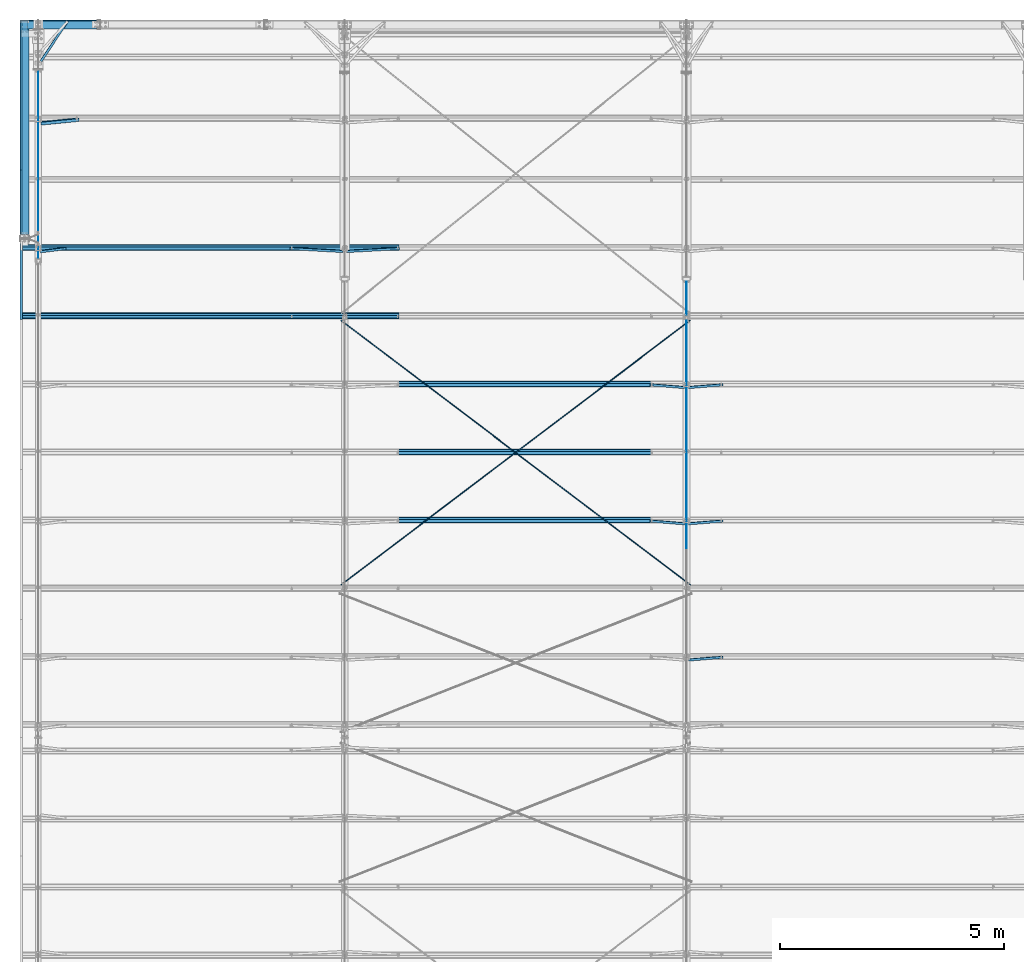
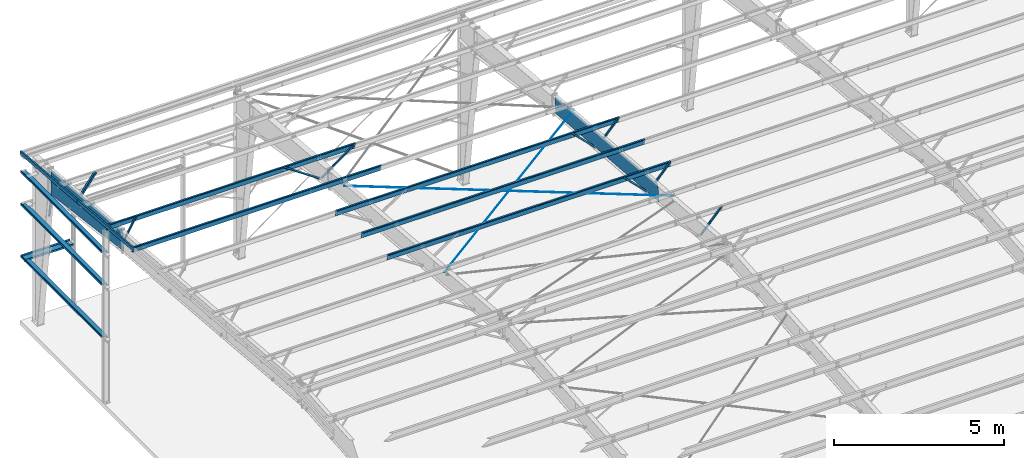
# One storey, part 12 of 185: 16 beams, 9 members, 2 openings, 25 elements without a shape of their own.
"""IFC2X3 building model written with IfcOpenShell, lengths in millimetres."""

import ifcopenshell
import ifcopenshell.guid

model = None  # the IFC model being written
_history = None  # IfcOwnerHistory: only IFC2X3 demands one
_inside = {}  # id of a spatial element -> (the spatial element, [elements in it])
_under = {}  # id of a project, library or spatial element -> (it, [spatial elements below it])
_declared = {}  # id of a project -> (the project, [libraries it declares])
_typed = {}  # id of a type object -> (the type object, [elements of that type])
_made_of = {}  # id of a material, layer set ... -> (it, [elements and type objects made of it])


def new_model(schema):
    """Start an empty IFC model of exactly this schema.

    Asked for "IFC4X3", IfcOpenShell would pick the latest addendum, in which some entities
    have other attributes; the version numbers below select the first issue.
    IFC2X3 requires an IfcOwnerHistory on every rooted entity: one is made here for all.
    """
    global model, _history
    if schema == "IFC4X3":
        model = ifcopenshell.file(schema_version=(4, 3, 0, 0))
    else:
        model = ifcopenshell.file(schema=schema)
    _inside.clear()
    _under.clear()
    _declared.clear()
    _typed.clear()
    _made_of.clear()
    _history = None
    if model.schema == "IFC2X3":
        org = make("IfcOrganization", Name="unknown")
        user = make(
            "IfcPersonAndOrganization",
            ThePerson=make("IfcPerson", FamilyName="unknown"),
            TheOrganization=org,
        )
        app = make(
            "IfcApplication",
            ApplicationDeveloper=org,
            Version="unknown",
            ApplicationFullName="unknown",
            ApplicationIdentifier="unknown",
        )
        _history = make(
            "IfcOwnerHistory",
            OwningUser=user,
            OwningApplication=app,
            ChangeAction="ADDED",
            CreationDate=0,
        )
    return model


def make(cls, **values):
    """One entity of the class cls with the attributes given. An attribute that is None is left unset."""
    return model.create_entity(
        cls, **{name: value for name, value in values.items() if value is not None}
    )


def rooted(cls, **values):
    """An entity with a GlobalId (a new one), such as an element, a storey or a relation."""
    return make(cls, GlobalId=ifcopenshell.guid.new(), OwnerHistory=_history, **values)


def si_unit(unit_type, name, prefix=None):
    """IfcSIUnit, for example si_unit("LENGTHUNIT", "METRE", prefix="MILLI")."""
    return make("IfcSIUnit", UnitType=unit_type, Prefix=prefix, Name=name)


def assignment(units):
    """IfcUnitAssignment: the units of a project."""
    return None if units is None else make("IfcUnitAssignment", Units=units)


def point(xyz):
    """IfcCartesianPoint."""
    return None if xyz is None else make("IfcCartesianPoint", Coordinates=xyz)


def direction(xyz):
    """IfcDirection."""
    return None if xyz is None else make("IfcDirection", DirectionRatios=xyz)


def frame(location, z_axis=None, x_axis=None):
    """IfcAxis2Placement3D, a coordinate frame: its origin and axes. An axis left out is left unset."""
    return make(
        "IfcAxis2Placement3D",
        Location=point(location),
        Axis=direction(z_axis),
        RefDirection=direction(x_axis),
    )


def frame_2d(location, x_axis=None):
    """IfcAxis2Placement2D, a coordinate frame in the plane: its origin and x axis."""
    return make(
        "IfcAxis2Placement2D", Location=point(location), RefDirection=direction(x_axis)
    )


def origin_with_axes():
    """The frame at (0, 0, 0) with the z axis (0, 0, 1) and the x axis (1, 0, 0) written out."""
    return frame((0.0, 0.0, 0.0), z_axis=(0.0, 0.0, 1.0), x_axis=(1.0, 0.0, 0.0))


def origin_2d_with_axis():
    """The frame at (0, 0) in the plane with the x axis (1, 0) written out."""
    return frame_2d((0.0, 0.0), x_axis=(1.0, 0.0))


def place(relative_to, where):
    """IfcLocalPlacement: puts the frame where relative to a parent placement (None: the world)."""
    return make(
        "IfcLocalPlacement", PlacementRelTo=relative_to, RelativePlacement=where
    )


def context(
    kind, dimensions, precision=None, world=None, true_north=None, identifier=None
):
    """IfcGeometricRepresentationContext, for example the 3D "Model" context."""
    return make(
        "IfcGeometricRepresentationContext",
        ContextIdentifier=identifier,
        ContextType=kind,
        CoordinateSpaceDimension=dimensions,
        Precision=precision,
        WorldCoordinateSystem=world,
        TrueNorth=true_north,
    )


def subcontext(parent, identifier, kind, view, scale=None):
    """IfcGeometricRepresentationSubContext, for example "Body" below "Model"."""
    return make(
        "IfcGeometricRepresentationSubContext",
        ContextIdentifier=identifier,
        ContextType=kind,
        ParentContext=parent,
        TargetScale=scale,
        TargetView=view,
    )


def project(units=None, contexts=None):
    """IfcProject with its units and contexts."""
    return rooted(
        "IfcProject",
        Name="project",
        RepresentationContexts=contexts,
        UnitsInContext=assignment(units),
    )


def spatial(cls, under=None, at=None, **own):
    """A site, building, storey or space (cls), placed at a placement, below another one or the project."""
    s = rooted(cls, ObjectPlacement=at, **own)
    if under is not None:
        _under.setdefault(under.id(), (under, []))[1].append(s)
    return s


def polyline(points):
    """IfcPolyline through the points."""
    return make("IfcPolyline", Points=[point(p) for p in points])


def profile(cls, at=None, kind="AREA", **sizes):
    """A parametric profile (cls). Its sizes go by their IFC names, for example OverallWidth=200.0."""
    return make(cls, ProfileType=kind, Position=at, **sizes)


def rectangle(**sizes):
    """IfcRectangleProfileDef."""
    return profile("IfcRectangleProfileDef", **sizes)


def circle(**sizes):
    """IfcCircleProfileDef."""
    return profile("IfcCircleProfileDef", **sizes)


def l_section(**sizes):
    """IfcLShapeProfileDef."""
    return profile("IfcLShapeProfileDef", **sizes)


def outline(outer, holes=None, kind="AREA"):
    """IfcArbitraryClosedProfileDef: a profile drawn as a closed curve; with holes, ...WithVoids."""
    if holes is None:
        return make("IfcArbitraryClosedProfileDef", ProfileType=kind, OuterCurve=outer)
    return make(
        "IfcArbitraryProfileDefWithVoids",
        ProfileType=kind,
        OuterCurve=outer,
        InnerCurves=holes,
    )


def extrude(swept, where, along, depth):
    """IfcExtrudedAreaSolid: the profile swept, set in the frame where, extruded along a direction by depth."""
    return make(
        "IfcExtrudedAreaSolid",
        SweptArea=swept,
        Position=where,
        ExtrudedDirection=direction(along),
        Depth=depth,
    )


def clip(a, b, op="DIFFERENCE"):
    """IfcBooleanClippingResult: the solid a cut by the half space b."""
    return make(
        "IfcBooleanClippingResult", Operator=op, FirstOperand=a, SecondOperand=b
    )


def halfspace(plane, agree):
    """IfcHalfSpaceSolid: all space on one side of the plane z = 0 of the frame plane."""
    return make(
        "IfcHalfSpaceSolid",
        BaseSurface=make("IfcPlane", Position=plane),
        AgreementFlag=agree,
    )


def shape(context_of_items, identifier, shape_type, items):
    """IfcShapeRepresentation: the items that make up one representation, for example the "Body"."""
    return make(
        "IfcShapeRepresentation",
        ContextOfItems=context_of_items,
        RepresentationIdentifier=identifier,
        RepresentationType=shape_type,
        Items=items,
    )


def material(Name=None, Category=None):
    """IfcMaterial."""
    return make("IfcMaterial", Name=Name, Category=Category)


def made_of(thing, what):
    """Note that an element or type object is made of a material, layer set ...; save() writes the relation."""
    if what is not None:
        _made_of.setdefault(what.id(), (what, []))[1].append(thing)
    return thing


def type_object(cls, material=None, **own):
    """A type object (cls), such as IfcWallType, which elements share."""
    return made_of(rooted(cls, **own), material)


def element(
    cls,
    number,
    at=None,
    inside=None,
    cuts=None,
    type_object=None,
    material=None,
    context=None,
    identifier="Body",
    shape_type=None,
    held_by="IfcProductDefinitionShape",
    body=None,
    shapes=None,
    **own,
):
    """One element of the class cls, such as IfcWall. Its Tag is "e" and its number.

    at: its placement. inside: the storey or other place that contains it. cuts: it is an
    opening in that element (IfcRelVoidsElement). A single representation is given by context,
    identifier, shape_type and body (its items); several are given by shapes. held_by: the class
    of the entity that holds the representations. save() writes the other relations.
    """
    e = rooted(cls, Tag="e%d" % number, ObjectPlacement=at, **own)
    if body is not None:
        shapes = [shape(context, identifier, shape_type, body)]
    if shapes is not None:
        e.Representation = make(held_by, Representations=shapes)
    if inside is not None:
        _inside.setdefault(inside.id(), (inside, []))[1].append(e)
    if cuts is not None:
        rooted(
            "IfcRelVoidsElement", RelatingBuildingElement=cuts, RelatedOpeningElement=e
        )
    if type_object is not None:
        _typed.setdefault(type_object.id(), (type_object, []))[1].append(e)
    return made_of(e, material)


def aggregate(whole, parts):
    """IfcRelAggregates: a whole, such as a stair, and the parts it consists of."""
    return rooted("IfcRelAggregates", RelatingObject=whole, RelatedObjects=parts)


def save(model, path):
    """Write the relations noted so far, then the file.

    IfcRelAggregates (storeys below a building ...), IfcRelContainedInSpatialStructure (elements
    in a storey), IfcRelDefinesByType, IfcRelAssociatesMaterial and IfcRelDeclares: one each for
    every whole, place, type object, material and project.
    """
    for whole, parts in _under.values():
        aggregate(whole, parts)
    for where, things in _inside.values():
        rooted(
            "IfcRelContainedInSpatialStructure",
            RelatedElements=things,
            RelatingStructure=where,
        )
    for kind, things in _typed.values():
        rooted("IfcRelDefinesByType", RelatedObjects=things, RelatingType=kind)
    for what, things in _made_of.values():
        rooted("IfcRelAssociatesMaterial", RelatedObjects=things, RelatingMaterial=what)
    for by, libraries in _declared.values():
        rooted("IfcRelDeclares", RelatingContext=by, RelatedDefinitions=libraries)
    model.write(path)


model = new_model("IFC2X3")

# Units and contexts
model_context = context("Model", 3, precision=1e-05, world=origin_with_axes())
body_context = subcontext(model_context, "Body", "Model", "MODEL_VIEW")
ifc_project = project(units=[si_unit("LENGTHUNIT", "METRE", prefix="MILLI"), si_unit("AREAUNIT", "SQUARE_METRE"), si_unit("VOLUMEUNIT", "CUBIC_METRE"), si_unit("MASSUNIT", "GRAM", prefix="KILO"), si_unit("TIMEUNIT", "SECOND"), si_unit("PLANEANGLEUNIT", "RADIAN"), si_unit("SOLIDANGLEUNIT", "STERADIAN"), si_unit("THERMODYNAMICTEMPERATUREUNIT", "DEGREE_CELSIUS"), si_unit("LUMINOUSINTENSITYUNIT", "LUMEN")], contexts=[model_context])

# Site, building, storey
site_placement = place(None, origin_with_axes())
site = spatial("IfcSite", under=ifc_project, at=site_placement, Name="Undefined", CompositionType="ELEMENT")
building_placement = place(site_placement, origin_with_axes())
building = spatial("IfcBuilding", under=site, at=building_placement, Name="Undefined", CompositionType="ELEMENT")
storey_placement = place(building_placement, origin_with_axes())
storey = spatial("IfcBuildingStorey", under=building, at=storey_placement, Name="Undefined", CompositionType="ELEMENT", Elevation=0.0)

# Assembly, beam, opening
assembly_1_placement = place(storey_placement, origin_with_axes())
assembly_1 = element("IfcElementAssembly", 1, at=assembly_1_placement, inside=storey, Name="Steel Assembly", AssemblyPlace="NOTDEFINED", PredefinedType="RIGID_FRAME")
ifc_material = material(Name="STEEL/55")
beam_type_1 = type_object("IfcBeamType", Name="8Z15", PredefinedType="NOTDEFINED")
beam_1_placement = place(assembly_1_placement, frame((101.6, 31978.6, 2286.0), z_axis=(1.0, 0.0, 0.0), x_axis=(0.0, -1.0, 0.0)))
beam_1 = element("IfcBeam", 2, at=beam_1_placement, type_object=beam_type_1, material=ifc_material, Name="Girt", ObjectType="8Z15", context=body_context, shape_type="Clipping", body=[
    clip(clip(extrude(outline(polyline([(-75.75, 87.0100021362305), (-63.5, 101.599998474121), (1.5900000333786, 101.599998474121), (1.5900000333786, -98.4199981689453), (62.0200004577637, -98.4199981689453), (73.3099975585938, -84.9700012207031), (75.7399978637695, -87.0100021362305), (63.5, -101.599998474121), (-1.5900000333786, -101.599998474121), (-1.5900000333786, 98.4199981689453), (-62.0200004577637, 98.4199981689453), (-73.3099975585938, 84.9700012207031), (-75.75, 87.0100021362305)])), frame((5054.60078125, 0.0, 0.0), z_axis=(-1.0, 0.0, 0.0), x_axis=(0.0, -1.0, 0.0)), (0.0, 0.0, 1.0), 5054.6), halfspace(frame((4762.5, -74.5286799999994, -101.6), z_axis=(1.0, 0.0, 0.0), x_axis=(0.0, 0.0, 1.0)), False)), halfspace(frame((4965.7, 74.5286799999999, -101.6), z_axis=(1.0, 0.0, 0.0), x_axis=(0.0, -1.0, 0.0)), False)),
])
opening_1_placement = place(assembly_1_placement, frame((101.6, 31978.6, 2286.0), z_axis=(1.0, 0.0, 0.0), x_axis=(0.0, -1.0, 0.0)))
element("IfcOpeningElement", 3, at=opening_1_placement, cuts=beam_1, ObjectType="Recess", context=body_context, shape_type="SweptSolid", body=[
    extrude(outline(polyline([(0.0, 0.0), (203.199996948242, 0.0), (203.199996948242, 254.0), (0.0, 254.0), (0.0, 0.0)])), frame((-50.8000000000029, 101.6, 73.025), z_axis=(0.0, 0.0, 1.0), x_axis=(0.0, -1.0, 0.0)), (0.0, 0.0, 1.0), 76.2),
])
aggregate(assembly_1, [beam_1])

# Assembly, beam
assembly_2_placement = place(storey_placement, origin_with_axes())
assembly_2 = element("IfcElementAssembly", 4, at=assembly_2_placement, inside=storey, Name="Steel Assembly", AssemblyPlace="NOTDEFINED", PredefinedType="RIGID_FRAME")
beam_2_placement = place(assembly_2_placement, frame((14859.0, 23890.9879796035, 6670.13216897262), z_axis=(0.0, -0.0830454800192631, -0.996545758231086), x_axis=(-1.0, 0.0, 0.0)))
beam_2 = element("IfcBeam", 5, at=beam_2_placement, type_object=beam_type_1, material=ifc_material, Name="Purlin", ObjectType="8Z15", context=body_context, shape_type="Clipping", body=[
    clip(clip(extrude(outline(polyline([(-75.75, 87.0100021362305), (-63.5, 101.599998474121), (1.5900000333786, 101.599998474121), (1.5900000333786, -98.4199981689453), (62.0200004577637, -98.4199981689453), (73.3099975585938, -84.9700012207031), (75.7399978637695, -87.0100021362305), (63.5, -101.599998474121), (-1.5900000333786, -101.599998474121), (-1.5900000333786, 98.4199981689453), (-62.0200004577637, 98.4199981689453), (-73.3099975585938, 84.9700012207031), (-75.75, 87.0100021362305)])), frame((8826.5, 0.0, 0.0), z_axis=(-1.0, 0.0, 0.0), x_axis=(0.0, -1.0, 0.0)), (0.0, 0.0, 1.0), 9626.6), halfspace(frame((8826.5, 2.91402102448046e-09, -101.600000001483), z_axis=(-1.0, 0.0, 0.0), x_axis=(0.0, 0.0, 1.0)), True)), halfspace(frame((-800.1, 2.91402102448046e-09, -101.600000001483), z_axis=(-1.0, 0.0, 0.0), x_axis=(0.0, 0.0, 1.0)), False)),
])
aggregate(assembly_2, [beam_2])

assembly_3_placement = place(storey_placement, origin_with_axes())
assembly_3 = element("IfcElementAssembly", 6, at=assembly_3_placement, inside=storey, Name="Steel Assembly", AssemblyPlace="NOTDEFINED", PredefinedType="RIGID_FRAME")
beam_3_placement = place(assembly_3_placement, frame((14859.0, 22372.2522440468, 6796.69348052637), z_axis=(0.0, -0.0830454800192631, -0.996545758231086), x_axis=(-1.0, 0.0, 0.0)))
beam_3 = element("IfcBeam", 7, at=beam_3_placement, type_object=beam_type_1, material=ifc_material, Name="Purlin", ObjectType="8Z15", context=body_context, shape_type="Clipping", body=[
    clip(clip(extrude(outline(polyline([(-75.75, 87.0100021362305), (-63.5, 101.599998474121), (1.5900000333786, 101.599998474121), (1.5900000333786, -98.4199981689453), (62.0200004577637, -98.4199981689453), (73.3099975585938, -84.9700012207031), (75.7399978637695, -87.0100021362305), (63.5, -101.599998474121), (-1.5900000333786, -101.599998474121), (-1.5900000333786, 98.4199981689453), (-62.0200004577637, 98.4199981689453), (-73.3099975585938, 84.9700012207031), (-75.75, 87.0100021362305)])), frame((8826.5, 0.0, 0.0), z_axis=(-1.0, 0.0, 0.0), x_axis=(0.0, -1.0, 0.0)), (0.0, 0.0, 1.0), 9626.6), halfspace(frame((8826.5, 2.91402102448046e-09, -101.600000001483), z_axis=(-1.0, 0.0, 0.0), x_axis=(0.0, 0.0, 1.0)), True)), halfspace(frame((-800.1, 2.91402102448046e-09, -101.600000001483), z_axis=(-1.0, 0.0, 0.0), x_axis=(0.0, 0.0, 1.0)), False)),
])
aggregate(assembly_3, [beam_3])

assembly_4_placement = place(storey_placement, origin_with_axes())
assembly_4 = element("IfcElementAssembly", 8, at=assembly_4_placement, inside=storey, Name="Steel Assembly", AssemblyPlace="NOTDEFINED", PredefinedType="RIGID_FRAME")
beam_4_placement = place(assembly_4_placement, frame((14859.0, 20853.51650849, 6923.25479208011), z_axis=(0.0, -0.0830454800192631, -0.996545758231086), x_axis=(-1.0, 0.0, 0.0)))
beam_4 = element("IfcBeam", 9, at=beam_4_placement, type_object=beam_type_1, material=ifc_material, Name="Purlin", ObjectType="8Z15", context=body_context, shape_type="Clipping", body=[
    clip(clip(extrude(outline(polyline([(-75.75, 87.0100021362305), (-63.5, 101.599998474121), (1.5900000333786, 101.599998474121), (1.5900000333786, -98.4199981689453), (62.0200004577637, -98.4199981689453), (73.3099975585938, -84.9700012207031), (75.7399978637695, -87.0100021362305), (63.5, -101.599998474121), (-1.5900000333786, -101.599998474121), (-1.5900000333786, 98.4199981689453), (-62.0200004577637, 98.4199981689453), (-73.3099975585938, 84.9700012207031), (-75.75, 87.0100021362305)])), frame((8826.5, 0.0, 0.0), z_axis=(-1.0, 0.0, 0.0), x_axis=(0.0, -1.0, 0.0)), (0.0, 0.0, 1.0), 9626.6), halfspace(frame((8826.5, 2.91402102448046e-09, -101.600000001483), z_axis=(-1.0, 0.0, 0.0), x_axis=(0.0, 0.0, 1.0)), True)), halfspace(frame((-800.1, 2.91402102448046e-09, -101.600000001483), z_axis=(-1.0, 0.0, 0.0), x_axis=(0.0, 0.0, 1.0)), False)),
])
aggregate(assembly_4, [beam_4])

assembly_5_placement = place(storey_placement, origin_with_axes())
assembly_5 = element("IfcElementAssembly", 10, at=assembly_5_placement, inside=storey, Name="Steel Assembly", AssemblyPlace="NOTDEFINED", PredefinedType="RIGID_FRAME")
beam_5_placement = place(assembly_5_placement, frame((101.6, 32004.0, 5334.0), z_axis=(1.0, 0.0, 0.0), x_axis=(0.0, -1.0, 0.0)))
beam_5 = element("IfcBeam", 11, at=beam_5_placement, type_object=beam_type_1, material=ifc_material, Name="Girt", ObjectType="8Z15", context=body_context, shape_type="Clipping", body=[
    clip(clip(extrude(outline(polyline([(-75.75, 87.0100021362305), (-63.5, 101.599998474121), (1.5900000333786, 101.599998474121), (1.5900000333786, -98.4199981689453), (62.0200004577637, -98.4199981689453), (73.3099975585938, -84.9700012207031), (75.7399978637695, -87.0100021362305), (63.5, -101.599998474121), (-1.5900000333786, -101.599998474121), (-1.5900000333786, 98.4199981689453), (-62.0200004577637, 98.4199981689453), (-73.3099975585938, 84.9700012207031), (-75.75, 87.0100021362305)])), frame((4876.8, 0.0, 0.0), z_axis=(-1.0, 0.0, 0.0), x_axis=(0.0, -1.0, 0.0)), (0.0, 0.0, 1.0), 4864.1), halfspace(frame((4787.9, -74.5286799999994, -101.6), z_axis=(1.0, 0.0, 0.0), x_axis=(0.0, 0.0, 1.0)), False)), halfspace(frame((12.6999999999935, 0.0, -101.599693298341), z_axis=(-1.0, 0.0, 0.0), x_axis=(0.0, 1.0, 0.0)), False)),
])
aggregate(assembly_5, [beam_5])

# Assembly, beam, opening
assembly_6_placement = place(storey_placement, origin_with_axes())
assembly_6 = element("IfcElementAssembly", 12, at=assembly_6_placement, inside=storey, Name="Steel Assembly", AssemblyPlace="NOTDEFINED", PredefinedType="RIGID_FRAME")
beam_6_placement = place(assembly_6_placement, frame((101.6, 32004.0, 4165.6), z_axis=(1.0, 0.0, 0.0), x_axis=(0.0, -1.0, 0.0)))
beam_6 = element("IfcBeam", 13, at=beam_6_placement, type_object=beam_type_1, material=ifc_material, Name="Girt", ObjectType="8Z15", context=body_context, shape_type="Clipping", body=[
    clip(clip(extrude(outline(polyline([(-75.75, 87.0100021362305), (-63.5, 101.599998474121), (1.5900000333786, 101.599998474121), (1.5900000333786, -98.4199981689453), (62.0200004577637, -98.4199981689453), (73.3099975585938, -84.9700012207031), (75.7399978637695, -87.0100021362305), (63.5, -101.599998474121), (-1.5900000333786, -101.599998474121), (-1.5900000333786, 98.4199981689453), (-62.0200004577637, 98.4199981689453), (-73.3099975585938, 84.9700012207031), (-75.75, 87.0100021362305)])), frame((4876.8, 0.0, 0.0), z_axis=(-1.0, 0.0, 0.0), x_axis=(0.0, -1.0, 0.0)), (0.0, 0.0, 1.0), 4851.4), halfspace(frame((4787.9, -74.5286799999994, -101.6), z_axis=(1.0, 0.0, 0.0), x_axis=(0.0, 0.0, 1.0)), False)), halfspace(frame((25.4000000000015, 0.0, -101.6), z_axis=(1.0, 0.0, 0.0), x_axis=(0.0, -1.0, 0.0)), True)),
])
opening_2_placement = place(assembly_6_placement, frame((101.6, 32004.0, 4165.6), z_axis=(1.0, 0.0, 0.0), x_axis=(0.0, -1.0, 0.0)))
element("IfcOpeningElement", 14, at=opening_2_placement, cuts=beam_6, ObjectType="Recess", context=body_context, shape_type="SweptSolid", body=[
    extrude(outline(polyline([(0.0, 0.0), (203.199996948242, 0.0), (203.199996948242, 254.0), (0.0, 254.0), (0.0, 0.0)])), frame((-25.4000000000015, 101.6, 73.025), z_axis=(0.0, 0.0, 1.0), x_axis=(0.0, -1.0, 0.0)), (0.0, 0.0, 1.0), 76.2),
])
aggregate(assembly_6, [beam_6])

# Assembly, beam
assembly_7_placement = place(storey_placement, origin_with_axes())
assembly_7 = element("IfcElementAssembly", 15, at=assembly_7_placement, inside=storey, Name="Steel Assembly", AssemblyPlace="NOTDEFINED", PredefinedType="RIGID_FRAME")
beam_type_2 = type_object("IfcBeamType", Name="FB-", PredefinedType="NOTDEFINED")
beam_7_placement = place(assembly_7_placement, frame((418.028109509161, 31058.3025985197, 4167.18750000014), z_axis=(0.0, 0.0, 1.0), x_axis=(0.552314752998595, 0.83363565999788, 0.0)))
beam_7 = element("IfcBeam", 16, at=beam_7_placement, type_object=beam_type_2, material=ifc_material, Name="2X2 FLANGE BRACE X 48", ObjectType="FB-", context=body_context, shape_type="SweptSolid", body=[
    extrude(outline(polyline([(1.5900000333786, 1.59000003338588), (50.7999992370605, 1.59000003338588), (50.7999992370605, 7.27595761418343e-12), (0.0, 0.0), (0.0, 50.7999992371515), (1.5900000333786, 50.7999992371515), (1.5900000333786, 1.59000003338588)])), frame((1115.71587763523, 0.0, 0.0), z_axis=(-1.0, 0.0, 0.0), x_axis=(0.0, -1.0, 0.0)), (0.0, 0.0, 1.0), 1115.7),
])
aggregate(assembly_7, [beam_7])

assembly_8_placement = place(storey_placement, origin_with_axes())
assembly_8 = element("IfcElementAssembly", 17, at=assembly_8_placement, inside=storey, Name="Steel Assembly", AssemblyPlace="NOTDEFINED", PredefinedType="RIGID_FRAME")
beam_type_3 = type_object("IfcBeamType", Name="8Z16", PredefinedType="NOTDEFINED")
beam_8_placement = place(assembly_8_placement, frame((1790.69990234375, 31902.4, 2286.0), z_axis=(0.0, -1.0, 0.0), x_axis=(-1.0, 0.0, 0.0)))
beam_8 = element("IfcBeam", 18, at=beam_8_placement, type_object=beam_type_3, material=ifc_material, Name="Girt", ObjectType="8Z16", context=body_context, shape_type="Clipping", body=[
    clip(clip(extrude(outline(polyline([(73.3099975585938, -84.9700012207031), (75.7399978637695, -87.0100021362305), (63.5, -101.599998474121), (-1.5900000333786, -101.599998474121), (-1.5900000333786, 98.4199981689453), (-62.0200004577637, 98.4199981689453), (-73.3099975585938, 84.9700012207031), (-75.75, 87.0100021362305), (-63.5, 101.599998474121), (1.5900000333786, 101.599998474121), (1.5900000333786, -98.4199981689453), (62.0200004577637, -98.4199981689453), (73.3099975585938, -84.9700012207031)])), frame((1765.29990234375, 0.0, 0.0), z_axis=(-1.0, 0.0, 0.0), x_axis=(0.0, -1.0, 0.0)), (0.0, 0.0, 1.0), 1676.4), halfspace(frame((1765.29990234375, 0.0, -101.599999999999), z_axis=(-1.0, 0.0, 0.0), x_axis=(0.0, 0.0, 1.0)), True)), halfspace(frame((88.8999023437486, -1.5900000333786, 0.0), z_axis=(1.0, 0.0, 0.0), x_axis=(0.0, -1.0, 0.0)), True)),
])
aggregate(assembly_8, [beam_8])

# Assembly, member
assembly_9_placement = place(storey_placement, origin_with_axes())
assembly_9 = element("IfcElementAssembly", 19, at=assembly_9_placement, inside=storey, Name="Steel Assembly", AssemblyPlace="NOTDEFINED", PredefinedType="RIGID_FRAME")
member_type_1 = type_object("IfcMemberType", Name="FB-", PredefinedType="NOTDEFINED")
member_1_placement = place(assembly_9_placement, frame((14904.6857108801, 23833.2927043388, 5977.78886514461), z_axis=(-0.697745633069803, 0.0594892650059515, 0.713871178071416), x_axis=(0.716345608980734, 0.0579446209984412, 0.6953354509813)))
member_1 = element("IfcMember", 20, at=member_1_placement, type_object=member_type_1, material=ifc_material, Name="2X2 FLANGE BRACE X 48", ObjectType="FB-", context=body_context, shape_type="SweptSolid", body=[
    extrude(outline(polyline([(1.5900000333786, 1.59000003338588), (50.7999992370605, 1.59000003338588), (50.7999992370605, 7.27595761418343e-12), (0.0, 0.0), (0.0, 50.7999992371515), (1.5900000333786, 50.7999992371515), (1.5900000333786, 1.59000003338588)])), frame((1067.82563693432, 1.82639893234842e-12, 1.75971317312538e-12), z_axis=(-1.0, 0.0, 0.0), x_axis=(0.0, -1.0, 0.0)), (0.0, 0.0, 1.0), 1067.8),
])
aggregate(assembly_9, [member_1])

assembly_10_placement = place(storey_placement, origin_with_axes())
assembly_10 = element("IfcElementAssembly", 21, at=assembly_10_placement, inside=storey, Name="Steel Assembly", AssemblyPlace="NOTDEFINED", PredefinedType="RIGID_FRAME")
member_2_placement = place(assembly_10_placement, frame((14904.6857108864, 20795.8212332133, 6230.91148776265), z_axis=(-0.697745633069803, 0.0594892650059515, 0.713871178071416), x_axis=(0.716345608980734, 0.0579446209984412, 0.6953354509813)))
member_2 = element("IfcMember", 22, at=member_2_placement, type_object=member_type_1, material=ifc_material, Name="2X2 FLANGE BRACE X 48", ObjectType="FB-", context=body_context, shape_type="SweptSolid", body=[
    extrude(outline(polyline([(1.5900000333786, 1.59000003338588), (50.7999992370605, 1.59000003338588), (50.7999992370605, 7.27595761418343e-12), (0.0, 0.0), (0.0, 50.7999992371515), (1.5900000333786, 50.7999992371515), (1.5900000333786, 1.59000003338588)])), frame((1067.82563693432, 1.82639893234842e-12, 1.75971317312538e-12), z_axis=(-1.0, 0.0, 0.0), x_axis=(0.0, -1.0, 0.0)), (0.0, 0.0, 1.0), 1067.8),
])
aggregate(assembly_10, [member_2])

assembly_11_placement = place(storey_placement, origin_with_axes())
assembly_11 = element("IfcElementAssembly", 23, at=assembly_11_placement, inside=storey, Name="Steel Assembly", AssemblyPlace="NOTDEFINED", PredefinedType="RIGID_FRAME")
member_3_placement = place(assembly_11_placement, frame((14904.6857108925, 17758.3497620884, 6484.03411038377), z_axis=(-0.697745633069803, 0.0594892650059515, 0.713871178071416), x_axis=(0.716345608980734, 0.0579446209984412, 0.6953354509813)))
member_3 = element("IfcMember", 24, at=member_3_placement, type_object=member_type_1, material=ifc_material, Name="2X2 FLANGE BRACE X 48", ObjectType="FB-", context=body_context, shape_type="SweptSolid", body=[
    extrude(outline(polyline([(1.5900000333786, 1.59000003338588), (50.7999992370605, 1.59000003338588), (50.7999992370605, 7.27595761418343e-12), (0.0, 0.0), (0.0, 50.7999992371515), (1.5900000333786, 50.7999992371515), (1.5900000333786, 1.59000003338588)])), frame((1067.82563693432, 1.82639893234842e-12, 1.75971317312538e-12), z_axis=(-1.0, 0.0, 0.0), x_axis=(0.0, -1.0, 0.0)), (0.0, 0.0, 1.0), 1067.8),
])
aggregate(assembly_11, [member_3])

assembly_12_placement = place(storey_placement, origin_with_axes())
assembly_12 = element("IfcElementAssembly", 25, at=assembly_12_placement, inside=storey, Name="Steel Assembly", AssemblyPlace="NOTDEFINED", PredefinedType="RIGID_FRAME")
member_4_placement = place(assembly_12_placement, frame((460.581702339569, 26861.5423714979, 5614.00459454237), z_axis=(-0.836838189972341, 0.0454632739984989, 0.545559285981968), x_axis=(0.54745031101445, 0.0694956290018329, 0.833947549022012)))
member_4 = element("IfcMember", 26, at=member_4_placement, type_object=member_type_1, material=ifc_material, Name="2X2 FLANGE BRACE X 48", ObjectType="FB-", context=body_context, shape_type="SweptSolid", body=[
    extrude(outline(polyline([(1.5900000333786, 1.59000003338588), (50.7999992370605, 1.59000003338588), (50.7999992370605, 7.27595761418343e-12), (0.0, 0.0), (0.0, 50.7999992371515), (1.5900000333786, 50.7999992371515), (1.5900000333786, 1.59000003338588)])), frame((1032.38451710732, 0.0, 1.43272132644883e-14), z_axis=(-1.0, 0.0, 0.0), x_axis=(0.0, -1.0, 0.0)), (0.0, 0.0, 1.0), 1032.4),
])
aggregate(assembly_12, [member_4])

assembly_13_placement = place(storey_placement, origin_with_axes())
assembly_13 = element("IfcElementAssembly", 27, at=assembly_13_placement, inside=storey, Name="Steel Assembly", AssemblyPlace="NOTDEFINED", PredefinedType="RIGID_FRAME")
member_5_placement = place(assembly_13_placement, frame((7278.71121482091, 26867.2467094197, 5682.45664960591), z_axis=(-0.552924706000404, 0.0691960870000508, 0.830353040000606), x_axis=(0.833231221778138, 0.0459178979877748, 0.551014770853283)))
member_5 = element("IfcMember", 28, at=member_5_placement, type_object=member_type_1, material=ifc_material, Name="2X2 FLANGE BRACE X 48", ObjectType="FB-", context=body_context, shape_type="SweptSolid", body=[
    extrude(outline(polyline([(1.5900000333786, 1.59000003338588), (50.7999992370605, 1.59000003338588), (50.7999992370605, 7.27595761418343e-12), (0.0, 0.0), (0.0, 50.7999992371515), (1.5900000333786, 50.7999992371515), (1.5900000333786, 1.59000003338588)])), frame((1412.08960292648, 3.63797880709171e-12, -9.09494701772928e-13), z_axis=(-1.0, 0.0, 0.0), x_axis=(0.0, -1.0, 0.0)), (0.0, 0.0, 1.0), 1412.1),
])
aggregate(assembly_13, [member_5])

assembly_14_placement = place(storey_placement, origin_with_axes())
assembly_14 = element("IfcElementAssembly", 29, at=assembly_14_placement, inside=storey, Name="Steel Assembly", AssemblyPlace="NOTDEFINED", PredefinedType="RIGID_FRAME")
member_6_placement = place(assembly_14_placement, frame((7199.28878517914, 26867.2467094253, 5682.45664960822), z_axis=(0.0, -0.996545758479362, 0.0830454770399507), x_axis=(-0.833231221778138, 0.0459178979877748, 0.551014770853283)))
member_6 = element("IfcMember", 30, at=member_6_placement, type_object=member_type_1, material=ifc_material, Name="2X2 FLANGE BRACE X 48", ObjectType="FB-", context=body_context, shape_type="SweptSolid", body=[
    extrude(outline(polyline([(1.5900000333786, 1.59000003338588), (50.7999992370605, 1.59000003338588), (50.7999992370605, 7.27595761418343e-12), (0.0, 0.0), (0.0, 50.7999992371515), (1.5900000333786, 50.7999992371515), (1.5900000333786, 1.59000003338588)])), frame((1412.08960292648, 3.63797880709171e-12, -9.09494701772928e-13), z_axis=(-1.0, 0.0, 0.0), x_axis=(0.0, -1.0, 0.0)), (0.0, 0.0, 1.0), 1412.1),
])
aggregate(assembly_14, [member_6])

assembly_15_placement = place(storey_placement, origin_with_axes())
assembly_15 = element("IfcElementAssembly", 31, at=assembly_15_placement, inside=storey, Name="Steel Assembly", AssemblyPlace="NOTDEFINED", PredefinedType="RIGID_FRAME")
member_7_placement = place(assembly_15_placement, frame((14813.3142891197, 23833.2927043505, 5977.7888651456), z_axis=(0.0, -0.996545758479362, 0.0830454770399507), x_axis=(-0.716345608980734, 0.0579446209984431, 0.6953354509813)))
member_7 = element("IfcMember", 32, at=member_7_placement, type_object=member_type_1, material=ifc_material, Name="2X2 FLANGE BRACE X 48", ObjectType="FB-", context=body_context, shape_type="SweptSolid", body=[
    extrude(outline(polyline([(1.5900000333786, 1.59000003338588), (50.7999992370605, 1.59000003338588), (50.7999992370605, 7.27595761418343e-12), (0.0, 0.0), (0.0, 50.7999992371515), (1.5900000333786, 50.7999992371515), (1.5900000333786, 1.59000003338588)])), frame((1067.82563693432, 1.82639893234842e-12, 1.75971317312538e-12), z_axis=(-1.0, 0.0, 0.0), x_axis=(0.0, -1.0, 0.0)), (0.0, 0.0, 1.0), 1067.8),
])
aggregate(assembly_15, [member_7])

assembly_16_placement = place(storey_placement, origin_with_axes())
assembly_16 = element("IfcElementAssembly", 33, at=assembly_16_placement, inside=storey, Name="Steel Assembly", AssemblyPlace="NOTDEFINED", PredefinedType="RIGID_FRAME")
member_8_placement = place(assembly_16_placement, frame((14813.3142891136, 20795.8212332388, 6230.9114877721), z_axis=(0.0, -0.996545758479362, 0.0830454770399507), x_axis=(-0.716345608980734, 0.0579446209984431, 0.6953354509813)))
member_8 = element("IfcMember", 34, at=member_8_placement, type_object=member_type_1, material=ifc_material, Name="2X2 FLANGE BRACE X 48", ObjectType="FB-", context=body_context, shape_type="SweptSolid", body=[
    extrude(outline(polyline([(1.5900000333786, 1.59000003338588), (50.7999992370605, 1.59000003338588), (50.7999992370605, 7.27595761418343e-12), (0.0, 0.0), (0.0, 50.7999992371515), (1.5900000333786, 50.7999992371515), (1.5900000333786, 1.59000003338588)])), frame((1067.82563693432, 1.82639893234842e-12, 1.75971317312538e-12), z_axis=(-1.0, 0.0, 0.0), x_axis=(0.0, -1.0, 0.0)), (0.0, 0.0, 1.0), 1067.8),
])
aggregate(assembly_16, [member_8])

# Assembly, beam
assembly_17_placement = place(storey_placement, origin_with_axes())
assembly_17 = element("IfcElementAssembly", 35, at=assembly_17_placement, inside=storey, Name="Steel Assembly", AssemblyPlace="NOTDEFINED", PredefinedType="RIGID_FRAME")
beam_type_4 = type_object("IfcBeamType", Name="RA-1", PredefinedType="NOTDEFINED")
beam_9_placement = place(assembly_17_placement, frame((0.0, 28662.7223374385, 6373.72645918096), z_axis=(0.0, -0.0830701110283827, -0.996543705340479), x_axis=(0.0, -0.996543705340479, 0.0830701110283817)))
beam_9 = element("IfcBeam", 36, at=beam_9_placement, type_object=beam_type_4, material=ifc_material, Name="STANDARD RAKE ANGLE", ObjectType="RA-1", context=body_context, shape_type="SweptSolid", body=[
    extrude(outline(polyline([(0.0, 0.0), (50.7999992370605, 7.27595761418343e-12), (50.7999992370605, -1.51999998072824), (-1.51999998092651, -1.51999998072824), (-1.51999998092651, 127.000000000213), (0.0, 127.000000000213), (0.0, 0.0)])), frame((3352.80000002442, 0.0, -1.86551885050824e-12), z_axis=(-1.0, 0.0, 0.0), x_axis=(0.0, -1.0, 0.0)), (0.0, 0.0, 1.0), 3352.8),
])
aggregate(assembly_17, [beam_9])

assembly_18_placement = place(storey_placement, origin_with_axes())
assembly_18 = element("IfcElementAssembly", 37, at=assembly_18_placement, inside=storey, Name="Steel Assembly", AssemblyPlace="NOTDEFINED", PredefinedType="RIGID_FRAME")
beam_10_placement = place(assembly_18_placement, frame((0.0, 32003.9340728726, 6095.20899258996), z_axis=(0.0, -0.0830701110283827, -0.996543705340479), x_axis=(0.0, -0.996543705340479, 0.0830701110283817)))
beam_10 = element("IfcBeam", 38, at=beam_10_placement, type_object=beam_type_4, material=ifc_material, Name="STANDARD RAKE ANGLE", ObjectType="RA-1", context=body_context, shape_type="SweptSolid", body=[
    extrude(outline(polyline([(0.0, 0.0), (50.7999992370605, 7.27595761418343e-12), (50.7999992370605, -1.51999998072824), (-1.51999998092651, -1.51999998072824), (-1.51999998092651, 127.000000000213), (0.0, 127.000000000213), (0.0, 0.0)])), frame((3352.80000002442, 0.0, -1.86551885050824e-12), z_axis=(-1.0, 0.0, 0.0), x_axis=(0.0, -1.0, 0.0)), (0.0, 0.0, 1.0), 3352.8),
])
aggregate(assembly_18, [beam_10])

# Assembly, member
assembly_19_placement = place(storey_placement, origin_with_axes())
assembly_19 = element("IfcElementAssembly", 39, at=assembly_19_placement, inside=storey, Name="Steel Assembly", AssemblyPlace="NOTDEFINED", PredefinedType="RIGID_FRAME")
member_type_2 = type_object("IfcMemberType", Name="L3X3X1/4", PredefinedType="NOTDEFINED")
member_9_placement = place(assembly_19_placement, frame((441.639762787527, 29698.8098092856, 5252.42447418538), z_axis=(-0.763208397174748, 0.0545372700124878, 0.643846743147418), x_axis=(0.646152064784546, 0.0633810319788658, 0.760572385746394)))
member_9 = element("IfcMember", 40, at=member_9_placement, type_object=member_type_2, material=ifc_material, Name="MISC STRUCTURAL ANGLE", ObjectType="L3X3X1/4", context=body_context, shape_type="SweptSolid", body=[
    extrude(l_section(Depth=76.2, Width=76.2, Thickness=6.35, FilletRadius=9.525, at=origin_2d_with_axis()), frame((1305.80450091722, 7.27595761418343e-12, -3.61985712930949e-12), z_axis=(-1.0, 0.0, 0.0), x_axis=(0.0, -1.0, 0.0)), (0.0, 0.0, 1.0), 1305.8),
])
aggregate(assembly_19, [member_9])

# Assembly, beam
assembly_20_placement = place(storey_placement, origin_with_axes())
assembly_20 = element("IfcElementAssembly", 41, at=assembly_20_placement, inside=storey, Name="Steel Assembly", AssemblyPlace="NOTDEFINED", PredefinedType="RIGID_FRAME")
beam_type_5 = type_object("IfcBeamType", Name="RB3/4\"", PredefinedType="NOTDEFINED")
beam_11_placement = place(assembly_20_placement, frame((14939.8900776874, 25305.8028708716, 6391.32492276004), z_axis=(0.0378627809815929, 0.0332353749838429, 0.99873010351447), x_axis=(-0.796162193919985, -0.602993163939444, 0.0502494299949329)))
beam_11 = element("IfcBeam", 42, at=beam_11_placement, type_object=beam_type_5, material=ifc_material, Name="ROD BRACE - 3/4", ObjectType="RB3/4\"", context=body_context, shape_type="SweptSolid", body=[
    extrude(circle(Radius=9.525, at=origin_2d_with_axis()), frame((9778.87663663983, 8.40844943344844e-13, -9.09494701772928e-13), z_axis=(-1.0, 0.0, 0.0), x_axis=(0.0, -1.0, 0.0)), (0.0, 0.0, 1.0), 9778.9),
])
aggregate(assembly_20, [beam_11])

assembly_21_placement = place(storey_placement, origin_with_axes())
assembly_21 = element("IfcElementAssembly", 43, at=assembly_21_placement, inside=storey, Name="Steel Assembly", AssemblyPlace="NOTDEFINED", PredefinedType="RIGID_FRAME")
beam_12_placement = place(assembly_21_placement, frame((7158.10992231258, 25305.8028708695, 6391.32492273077), z_axis=(-0.0378644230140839, 0.0332332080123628, 0.998730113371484), x_axis=(0.796162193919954, -0.602993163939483, 0.0502494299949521)))
beam_12 = element("IfcBeam", 44, at=beam_12_placement, type_object=beam_type_5, material=ifc_material, Name="ROD BRACE - 3/4", ObjectType="RB3/4\"", context=body_context, shape_type="SweptSolid", body=[
    extrude(circle(Radius=9.525, at=origin_2d_with_axis()), frame((9778.87663663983, 8.40844943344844e-13, -9.09494701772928e-13), z_axis=(-1.0, 0.0, 0.0), x_axis=(0.0, -1.0, 0.0)), (0.0, 0.0, 1.0), 9778.9),
])
aggregate(assembly_21, [beam_12])

assembly_22_placement = place(storey_placement, origin_with_axes())
assembly_22 = element("IfcElementAssembly", 45, at=assembly_22_placement, inside=storey, Name="Steel Assembly", AssemblyPlace="NOTDEFINED", PredefinedType="RIGID_FRAME")
beam_type_6 = type_object("IfcBeamType", Name="8Z13", PredefinedType="NOTDEFINED")
beam_13_placement = place(assembly_22_placement, frame((7239.0, 26928.4594507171, 6417.00954586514), z_axis=(0.0, -0.0830454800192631, -0.996545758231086), x_axis=(-1.0, 0.0, 0.0)))
beam_13 = element("IfcBeam", 46, at=beam_13_placement, type_object=beam_type_6, material=ifc_material, Name="Purlin", ObjectType="8Z13", context=body_context, shape_type="Clipping", body=[
    clip(clip(extrude(outline(polyline([(-62.0200004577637, 98.4199981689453), (-73.3099975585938, 84.9700012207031), (-75.75, 87.0100021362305), (-63.5, 101.599998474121), (1.5900000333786, 101.599998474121), (1.5900000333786, -98.4199981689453), (62.0200004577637, -98.4199981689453), (73.3099975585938, -84.9700012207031), (75.7399978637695, -87.0100021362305), (63.5, -101.599998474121), (-1.5900000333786, -101.599998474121), (-1.5900000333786, 98.4199981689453), (-62.0200004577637, 98.4199981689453)])), frame((7226.3, 0.0, 0.0), z_axis=(-1.0, 0.0, 0.0), x_axis=(0.0, -1.0, 0.0)), (0.0, 0.0, 1.0), 8432.8), halfspace(frame((7226.3, 2.91402102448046e-09, -101.600000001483), z_axis=(-1.0, 0.0, 0.0), x_axis=(0.0, 0.0, -1.0)), True)), halfspace(frame((-1206.5, 2.91402102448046e-09, -101.600000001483), z_axis=(-1.0, 0.0, 0.0), x_axis=(0.0, 0.0, 1.0)), False)),
])
aggregate(assembly_22, [beam_13])

assembly_23_placement = place(storey_placement, origin_with_axes())
assembly_23 = element("IfcElementAssembly", 47, at=assembly_23_placement, inside=storey, Name="Steel Assembly", AssemblyPlace="NOTDEFINED", PredefinedType="RIGID_FRAME")
beam_14_placement = place(assembly_23_placement, frame((7239.0, 25409.7237151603, 6543.57085741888), z_axis=(0.0, -0.0830454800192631, -0.996545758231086), x_axis=(-1.0, 0.0, 0.0)))
beam_14 = element("IfcBeam", 48, at=beam_14_placement, type_object=beam_type_6, material=ifc_material, Name="Purlin", ObjectType="8Z13", context=body_context, shape_type="Clipping", body=[
    clip(clip(extrude(outline(polyline([(-62.0200004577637, 98.4199981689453), (-73.3099975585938, 84.9700012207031), (-75.75, 87.0100021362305), (-63.5, 101.599998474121), (1.5900000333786, 101.599998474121), (1.5900000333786, -98.4199981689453), (62.0200004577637, -98.4199981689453), (73.3099975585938, -84.9700012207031), (75.7399978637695, -87.0100021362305), (63.5, -101.599998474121), (-1.5900000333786, -101.599998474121), (-1.5900000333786, 98.4199981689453), (-62.0200004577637, 98.4199981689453)])), frame((7226.3, 0.0, 0.0), z_axis=(-1.0, 0.0, 0.0), x_axis=(0.0, -1.0, 0.0)), (0.0, 0.0, 1.0), 8432.8), halfspace(frame((7226.3, 2.91402102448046e-09, -101.600000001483), z_axis=(-1.0, 0.0, 0.0), x_axis=(0.0, 0.0, -1.0)), True)), halfspace(frame((-1206.5, 2.91402102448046e-09, -101.600000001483), z_axis=(-1.0, 0.0, 0.0), x_axis=(0.0, 0.0, 1.0)), False)),
])
aggregate(assembly_23, [beam_14])

assembly_24_placement = place(storey_placement, origin_with_axes())
assembly_24 = element("IfcElementAssembly", 49, at=assembly_24_placement, inside=storey, Name="Steel Assembly", AssemblyPlace="NOTDEFINED", PredefinedType="RIGID_FRAME")
beam_type_7 = type_object("IfcBeamType", Name="PL3/16\"X36\"", PredefinedType="NOTDEFINED")
beam_15_placement = place(assembly_24_placement, frame((406.399999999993, 30917.9933677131, 5517.74184500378), z_axis=(0.0, 0.0830454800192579, 0.996545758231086), x_axis=(0.0, -0.996545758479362, 0.0830454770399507)))
beam_15 = element("IfcBeam", 50, at=beam_15_placement, type_object=beam_type_7, material=ifc_material, Name="Web", ObjectType="PL3/16\"X36\"", context=body_context, shape_type="Clipping", body=[
    clip(clip(clip(extrude(rectangle(XDim=4.7625, YDim=913.797301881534, at=origin_2d_with_axis()), frame((4291.14071325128, 0.0, 0.0), z_axis=(-1.0, 0.0, 0.0), x_axis=(0.0, -1.0, 0.0)), (0.0, 0.0, 1.0), 4351.0), halfspace(frame((-6.25732354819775e-10, 2.38124999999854, -456.898650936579), z_axis=(0.0470547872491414, 0.0, -0.998892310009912), x_axis=(0.0, -1.0, 0.0)), False)), halfspace(frame((4291.14071326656, 0.0, 456.898650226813), z_axis=(-1.0, 0.0, 0.0), x_axis=(0.0, -1.0, 0.0)), True)), halfspace(frame((76.0618854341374, 0.0, 455.843973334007), z_axis=(-0.996545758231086, 0.0, 0.0830454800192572), x_axis=(0.0, -1.0, 0.0)), False)),
])
aggregate(assembly_24, [beam_15])

assembly_25_placement = place(storey_placement, origin_with_axes())
assembly_25 = element("IfcElementAssembly", 51, at=assembly_25_placement, inside=storey, Name="Steel Assembly", AssemblyPlace="NOTDEFINED", PredefinedType="RIGID_FRAME")
beam_type_8 = type_object("IfcBeamType", Name="PL1/8\"X24\"", PredefinedType="NOTDEFINED")
beam_16_placement = place(assembly_25_placement, frame((14859.0, 26230.3200780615, 6059.40140337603), z_axis=(0.0, 0.0830454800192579, 0.996545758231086), x_axis=(0.0, -0.996545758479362, 0.0830454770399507)))
beam_16 = element("IfcBeam", 52, at=beam_16_placement, type_object=beam_type_8, material=ifc_material, Name="Web", ObjectType="PL1/8\"X24\"", context=body_context, shape_type="Clipping", body=[
    clip(extrude(rectangle(XDim=3.4163, YDim=609.59999999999, at=origin_2d_with_axis()), frame((6095.99999991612, 0.0, -8.45989944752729e-14), z_axis=(-1.0, 0.0, 0.0), x_axis=(0.0, -1.0, 0.0)), (0.0, 0.0, 1.0), 6096.0), halfspace(frame((2.96531652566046e-08, 0.0, 304.799999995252), z_axis=(-1.0, 0.0, 0.0), x_axis=(0.0, -1.0, 0.0)), False)),
])
aggregate(assembly_25, [beam_16])

save(model, "model.ifc")
